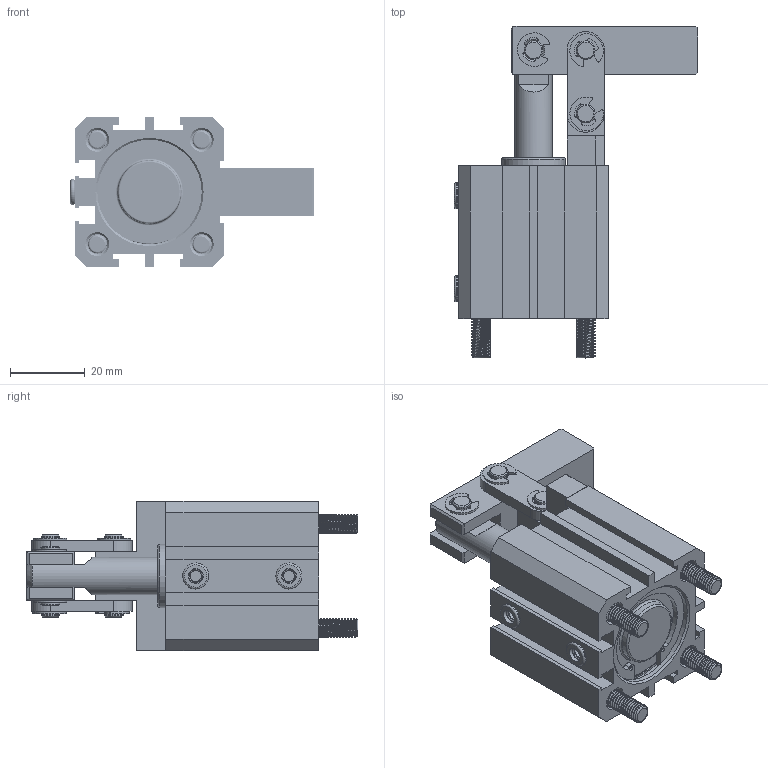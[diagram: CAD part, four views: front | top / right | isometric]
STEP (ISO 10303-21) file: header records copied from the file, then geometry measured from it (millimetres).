
FILE_DESCRIPTION(/* description */ ('STEP AP203'),/* implementation_level */ '2;1');
FILE_NAME(/* name */ 'E:\SERWER_ZAPAS\MODELE brakujace\PNEUMATIC\CALC(STEP)\CALC-25\CALC-25_ZAMKNIETY.stp',/* time_stamp */ '2019-02-06T15:31:54+01:00',/* author */ ('Admin'),/* organization */ ('Î¢ÈíÖÐ¹ú'),/* preprocessor_version */ 'ST-DEVELOPER v17.2',/* originating_system */ 'Autodesk Inventor 2019',/* authorisation */ '');
FILE_SCHEMA (('AUTOMOTIVE_DESIGN { 1 0 10303 214 3 1 1 }'));
Length unit declared in the file: millimetre
Products named in the file (17): CALC-25_ZAMKNIETY; ºó¸Ç; »îÈû¸Ë; ±¾Ìå; »îÈû; ¸ÕÌ×; M5¶ÂÍ·225; Áã¼þ2ÈÏ; ³¤Ïú; ¶ÌÏú; 233; Á¬¸Ë; ¿¨»É01; Á¬¸ËÖ§³Å×ù; Ñ¹±Û; m555; Ç°¸Ç
Assembly tree (27 placements, depth 2):
  CALC-25_ZAMKNIETY
    ºó¸Ç
    233  x2
    ¿¨»É01  x6
    Áã¼þ2ÈÏ  x2
    »îÈû¸Ë
    ±¾Ìå
    »îÈû
    ¸ÕÌ×
    M5¶ÂÍ·225  x2
    Á¬¸Ë  x2
    ³¤Ïú  x2
    m555  x2
    ¶ÌÏú
    Á¬¸ËÖ§³Å×ù
    Ñ¹±Û
    Ç°¸Ç
Bounding box: 65.2 x 89 x 40 mm (x, y, z)
Volume: 58021 mm3; surface area: 42927.4 mm2
Topology: 27 solids, 27 shells, 757 faces, 2107 edges, 1465 vertices
Faces by surface type: cylinder 340, plane 288, torus 65, cone 41, bspline 23
Full cylindrical faces by diameter (mm): 1.071 x4, 1.5 x2, 3 x2, 4 x4, 4.2 x6, 4.7 x2, 5 x146, 5.4 x4, 5.5 x2, 6.5 x1, 7 x2, 8 x4, 8.5 x8, 9 x2, 10 x4, 11 x1, 12 x1, 13 x1, 14 x1, 16 x1, 16.702 x1, 17 x2, 19 x1, 21 x1, 22 x1, 24.702 x2, 24.8 x2, 25 x1, 28 x8, 29.5 x2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
Entity records: 32729 total; most frequent: CARTESIAN_POINT 19108, DIRECTION 2783, ORIENTED_EDGE 2724, EDGE_CURVE 1362, AXIS2_PLACEMENT_3D 1110, VERTEX_POINT 957, CIRCLE 589, EDGE_LOOP 575
